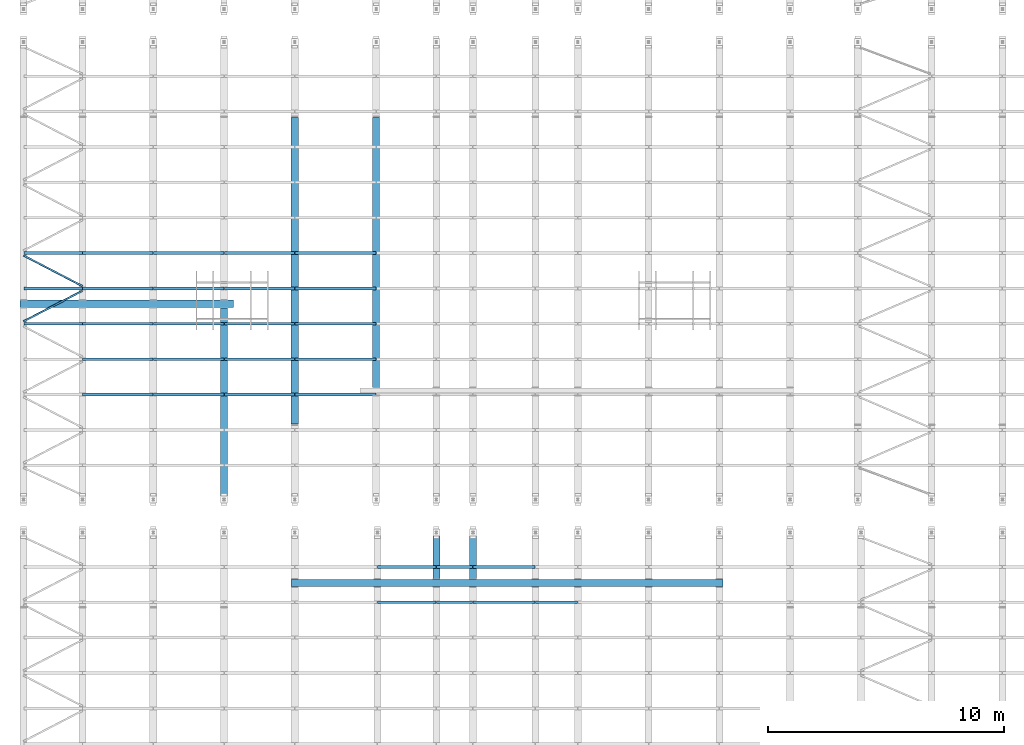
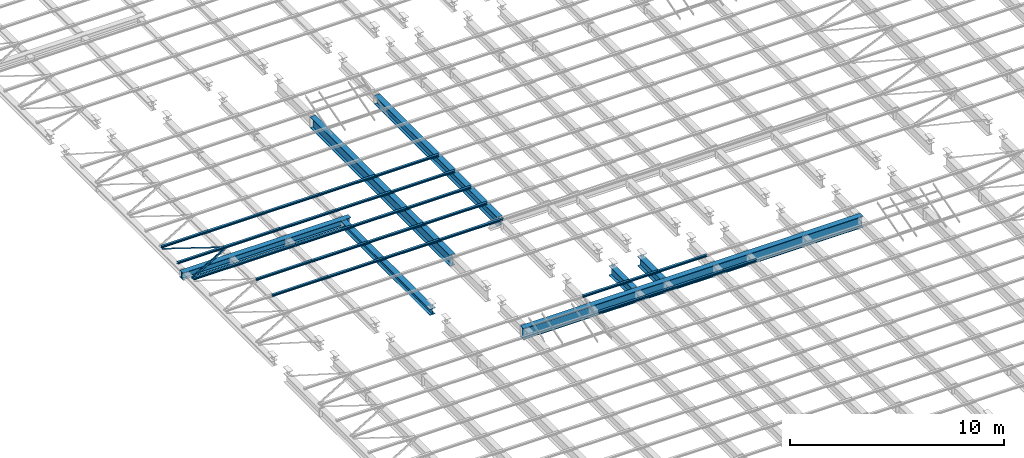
# One storey, part 41 of 139: 39 beams.
"""IFC2X3 building model written with IfcOpenShell, lengths in metres."""

from ifc_helpers import new_model, entity, si_unit, converted_unit, derived_unit, frame, origin, place, context, subcontext, project, spatial, polyline, outline, extrude, material, element, save


model = new_model("IFC2X3")

# Units and contexts
model_context = context("Model", 3, precision=1e-05, world=origin())
body_context = subcontext(model_context, "Body", "Model", "MODEL_VIEW")
ifc_project = project(units=[si_unit("LENGTHUNIT", "METRE"), si_unit("AREAUNIT", "SQUARE_METRE"), si_unit("VOLUMEUNIT", "CUBIC_METRE"), si_unit("MASSUNIT", "GRAM", prefix="KILO"), converted_unit("PLANEANGLEUNIT", "DEGREE", entity("IfcPlaneAngleMeasure", 0.0174532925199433), si_unit("PLANEANGLEUNIT", "RADIAN"), dimensions=[0, 0, 0, 0, 0, 0, 0]), derived_unit("THERMALTRANSMITTANCEUNIT", [(si_unit("POWERUNIT", "WATT"), 1), (si_unit("THERMODYNAMICTEMPERATUREUNIT", "KELVIN"), -1), (si_unit("LENGTHUNIT", "METRE"), -2)]), derived_unit("VOLUMETRICFLOWRATEUNIT", [(si_unit("LENGTHUNIT", "METRE"), 3), (converted_unit("TIMEUNIT", "hour", entity("IfcTimeMeasure", 3600.0), si_unit("TIMEUNIT", "SECOND"), dimensions=[0, 0, 1, 0, 0, 0, 0]), -1), (si_unit("LENGTHUNIT", "METRE"), -1)])], contexts=[model_context])

# Site, building, storey
site_placement = place(None, origin())
site = spatial("IfcSite", under=ifc_project, at=site_placement, Name="TWP_Speiseverteilzentrum SBW VZ II", CompositionType="ELEMENT")
building_placement = place(site_placement, origin())
building = spatial("IfcBuilding", under=site, at=building_placement, Name="Speiseverteilzentrum SBW VZ II", CompositionType="ELEMENT")
storey_placement = place(building_placement, frame((0.0, 0.0, 7.1307)))
storey = spatial("IfcBuildingStorey", under=building, at=storey_placement, Name="Wartung_FFB", CompositionType="ELEMENT", Elevation=7.1307)

# Beams
ifc_material_1 = material(Name="S235")
beam_1_placement = place(storey_placement, frame((21.9000000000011, 27.9599286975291, -0.51), z_axis=(0.0, 0.0, 1.0), x_axis=(-1.22464679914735e-16, -1.0, 0.0)))
element("IfcBeam", 1, at=beam_1_placement, inside=storey, material=ifc_material_1, Name="Stahlträger", context=body_context, shape_type="SweptSolid", body=[
    extrude(outline(polyline([(-0.15, 0.32), (-0.15, 0.294), (-0.00675000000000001, 0.294), (-0.00675000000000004, -0.294), (-0.15, -0.294), (-0.15, -0.32), (0.15, -0.32), (0.15, -0.294), (0.00674999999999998, -0.294), (0.00675000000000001, 0.294), (0.15, 0.294), (0.15, 0.32), (-0.15, 0.32)])), frame((0.0, 0.0, 0.0), z_axis=(0.0, 1.0, 0.0), x_axis=(-1.0, 0.0, 0.0)), (0.0, 0.0, 1.0), 18.3),
])
ifc_material_2 = material(Name="S235")
beam_2_placement = place(storey_placement, frame((10.3999999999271, 39.7998118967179, -0.385), z_axis=(0.0, 0.0, 1.0), x_axis=(-1.22464679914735e-16, -1.0, 0.0)))
element("IfcBeam", 2, at=beam_2_placement, inside=storey, material=ifc_material_2, Name="Stahlträger", context=body_context, shape_type="SweptSolid", body=[
    extrude(outline(polyline([(-0.15, 0.195), (-0.15, 0.176), (-0.00550000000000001, 0.176), (-0.00550000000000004, -0.176), (-0.15, -0.176), (-0.15, -0.195), (0.15, -0.195), (0.15, -0.176), (0.00549999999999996, -0.176), (0.00549999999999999, 0.176), (0.15, 0.176), (0.15, 0.195), (-0.15, 0.195)])), frame((0.0, 0.0, 0.0), z_axis=(0.0, 1.0, 0.0), x_axis=(-1.0, 0.0, 0.0)), (0.0, 0.0, 1.0), 9.05991337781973),
])
ifc_material_3 = material(Name="S235")
beam_3_placement = place(storey_placement, frame((22.0500000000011, 47.7020742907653, -0.51), z_axis=(0.0, 0.0, 1.0), x_axis=(-1.0, 0.0, 0.0)))
element("IfcBeam", 3, at=beam_3_placement, inside=storey, material=ifc_material_3, Name="Stahlträger", context=body_context, shape_type="SweptSolid", body=[
    extrude(outline(polyline([(-0.15, 0.32), (-0.15, 0.294), (-0.00675000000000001, 0.294), (-0.00675000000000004, -0.294), (-0.15, -0.294), (-0.15, -0.32), (0.15, -0.32), (0.15, -0.294), (0.00674999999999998, -0.294), (0.00675000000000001, 0.294), (0.15, 0.294), (0.15, 0.32), (-0.15, 0.32)])), frame((0.0, 0.0, 0.0), z_axis=(0.0, 1.0, 0.0), x_axis=(-1.0, 0.0, 0.0)), (0.0, 0.0, 1.0), 13.0041485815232),
])
ifc_material_4 = material(Name="S235")
beam_4_placement = place(storey_placement, frame((25.5025522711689, 47.7070000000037, -0.435), z_axis=(0.0, 0.0, 1.0), x_axis=(-1.0, 0.0, 0.0)))
element("IfcBeam", 4, at=beam_4_placement, inside=storey, material=ifc_material_4, Name="Stahlträger", context=body_context, shape_type="SweptSolid", body=[
    extrude(outline(polyline([(-0.15, 0.245), (-0.15, 0.222), (-0.00599999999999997, 0.222), (-0.006, -0.222), (-0.15, -0.222), (-0.15, -0.245), (0.15, -0.245), (0.15, -0.222), (0.00600000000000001, -0.222), (0.00600000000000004, 0.222), (0.15, 0.222), (0.15, 0.245), (-0.15, 0.245)])), frame((0.0, 0.0, 0.0), z_axis=(0.0, 1.0, 0.0), x_axis=(-1.0, 0.0, 0.0)), (0.0, 0.0, 1.0), 11.4521521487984),
])
ifc_material_5 = material(Name="S235")
beam_5_placement = place(storey_placement, frame((19.0500000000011, 39.6248118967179, -0.365), z_axis=(0.0, 0.0, 1.0), x_axis=(-1.0, 0.0, 0.0)))
element("IfcBeam", 5, at=beam_5_placement, inside=storey, material=ifc_material_5, Name="Stahlträger", context=body_context, shape_type="SweptSolid", body=[
    extrude(outline(polyline([(-0.15, 0.175), (-0.15, 0.1575), (-0.00500000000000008, 0.1575), (-0.0050000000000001, -0.1575), (-0.15, -0.1575), (-0.15, -0.175), (0.15, -0.175), (0.15, -0.1575), (0.0049999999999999, -0.1575), (0.00499999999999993, 0.1575), (0.15, 0.1575), (0.15, 0.175), (-0.15, 0.175)])), frame((0.0, 0.0, 0.0), z_axis=(0.0, 1.0, 0.0), x_axis=(-1.0, 0.0, 0.0)), (0.0, 0.0, 1.0), 8.27481189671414),
])
ifc_material_6 = material(Name="S235")
beam_6_placement = place(storey_placement, frame((28.0500000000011, 30.2500000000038, -0.46), z_axis=(0.0, 0.0, 1.0), x_axis=(-1.0, 0.0, 0.0)))
element("IfcBeam", 6, at=beam_6_placement, inside=storey, material=ifc_material_6, Name="Stahlträger", context=body_context, shape_type="SweptSolid", body=[
    extrude(outline(polyline([(-0.15, 0.27), (-0.15, 0.246), (-0.0062499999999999, 0.246), (-0.00624999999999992, -0.246), (-0.15, -0.246), (-0.15, -0.27), (0.15, -0.27), (0.15, -0.246), (0.00625000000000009, -0.246), (0.00625000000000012, 0.246), (0.15, 0.246), (0.15, 0.27), (-0.15, 0.27)])), frame((0.0, 0.0, 0.0), z_axis=(0.0, 1.0, 0.0), x_axis=(-1.0, 0.0, 0.0)), (0.0, 0.0, 1.0), 2.11507130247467),
])
ifc_material_7 = material(Name="S235")
beam_7_placement = place(storey_placement, frame((29.6000000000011, 30.2500000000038, -0.46), z_axis=(0.0, 0.0, 1.0), x_axis=(-1.0, 0.0, 0.0)))
element("IfcBeam", 7, at=beam_7_placement, inside=storey, material=ifc_material_7, Name="Stahlträger", context=body_context, shape_type="SweptSolid", body=[
    extrude(outline(polyline([(-0.15, 0.27), (-0.15, 0.246), (-0.0062499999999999, 0.246), (-0.00624999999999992, -0.246), (-0.15, -0.246), (-0.15, -0.27), (0.15, -0.27), (0.15, -0.246), (0.00625000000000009, -0.246), (0.00625000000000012, 0.246), (0.15, 0.246), (0.15, 0.27), (-0.15, 0.27)])), frame((0.0, 0.0, 0.0), z_axis=(0.0, 1.0, 0.0), x_axis=(-1.0, 0.0, 0.0)), (0.0, 0.0, 1.0), 2.11507130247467),
])
ifc_material_8 = material(Name="S235")
beam_8_placement = place(storey_placement, frame((13.0600000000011, 41.9500000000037, -0.133), z_axis=(0.0, 0.0, 1.0), x_axis=(0.0, -1.0, 0.0)))
element("IfcBeam", 8, at=beam_8_placement, inside=storey, material=ifc_material_8, Name="Nebenträger", context=body_context, shape_type="SweptSolid", body=[
    extrude(outline(polyline([(-0.06, 0.0570000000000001), (-0.06, 0.0490000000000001), (-0.00249999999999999, 0.0490000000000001), (-0.0025, -0.0489999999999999), (-0.06, -0.0489999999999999), (-0.06, -0.0569999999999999), (0.06, -0.0569999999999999), (0.06, -0.0489999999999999), (0.0025, -0.0489999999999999), (0.00250000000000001, 0.0490000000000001), (0.06, 0.0490000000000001), (0.06, 0.0570000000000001), (-0.06, 0.0570000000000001)])), frame((0.0, 0.0, 0.0), z_axis=(0.0, 1.0, 0.0), x_axis=(-1.0, 0.0, 0.0)), (0.0, 0.0, 1.0), 2.98),
])
ifc_material_9 = material(Name="S235")
beam_9_placement = place(storey_placement, frame((16.0600000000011, 41.9500000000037, -0.133), z_axis=(0.0, 0.0, 1.0), x_axis=(0.0, -1.0, 0.0)))
element("IfcBeam", 9, at=beam_9_placement, inside=storey, material=ifc_material_9, Name="Nebenträger", context=body_context, shape_type="SweptSolid", body=[
    extrude(outline(polyline([(-0.06, 0.0570000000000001), (-0.06, 0.0490000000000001), (-0.00249999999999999, 0.0490000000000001), (-0.0025, -0.0489999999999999), (-0.06, -0.0489999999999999), (-0.06, -0.0569999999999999), (0.06, -0.0569999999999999), (0.06, -0.0489999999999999), (0.0025, -0.0489999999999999), (0.00250000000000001, 0.0490000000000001), (0.06, 0.0490000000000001), (0.06, 0.0570000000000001), (-0.06, 0.0570000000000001)])), frame((0.0, 0.0, 0.0), z_axis=(0.0, 1.0, 0.0), x_axis=(-1.0, 0.0, 0.0)), (0.0, 0.0, 1.0), 2.98),
])
ifc_material_10 = material(Name="S235")
beam_10_placement = place(storey_placement, frame((19.0600000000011, 41.9500000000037, -0.133), z_axis=(0.0, 0.0, 1.0), x_axis=(0.0, -1.0, 0.0)))
element("IfcBeam", 10, at=beam_10_placement, inside=storey, material=ifc_material_10, Name="Nebenträger", context=body_context, shape_type="SweptSolid", body=[
    extrude(outline(polyline([(-0.06, 0.0570000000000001), (-0.06, 0.0490000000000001), (-0.00249999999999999, 0.0490000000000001), (-0.0025, -0.0489999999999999), (-0.06, -0.0489999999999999), (-0.06, -0.0569999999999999), (0.06, -0.0569999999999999), (0.06, -0.0489999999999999), (0.0025, -0.0489999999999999), (0.00250000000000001, 0.0490000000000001), (0.06, 0.0490000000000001), (0.06, 0.0570000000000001), (-0.06, 0.0570000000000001)])), frame((0.0, 0.0, 0.0), z_axis=(0.0, 1.0, 0.0), x_axis=(-1.0, 0.0, 0.0)), (0.0, 0.0, 1.0), 2.98),
])
ifc_material_11 = material(Name="S235")
beam_11_placement = place(storey_placement, frame((10.5600000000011, 41.9500000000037, -0.133), z_axis=(0.0, 0.0, 1.0), x_axis=(0.0, -1.0, 0.0)))
element("IfcBeam", 11, at=beam_11_placement, inside=storey, material=ifc_material_11, Name="Nebenträger", context=body_context, shape_type="SweptSolid", body=[
    extrude(outline(polyline([(-0.06, 0.0570000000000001), (-0.06, 0.0490000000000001), (-0.00249999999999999, 0.0490000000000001), (-0.0025, -0.0489999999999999), (-0.06, -0.0489999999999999), (-0.06, -0.0569999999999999), (0.06, -0.0569999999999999), (0.06, -0.0489999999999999), (0.0025, -0.0489999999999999), (0.00250000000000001, 0.0490000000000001), (0.06, 0.0490000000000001), (0.06, 0.0570000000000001), (-0.06, 0.0570000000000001)])), frame((0.0, 0.0, 0.0), z_axis=(0.0, 1.0, 0.0), x_axis=(-1.0, 0.0, 0.0)), (0.0, 0.0, 1.0), 2.48000000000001),
])
ifc_material_12 = material(Name="S235")
beam_12_placement = place(storey_placement, frame((13.0600000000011, 40.4500000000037, -0.133), z_axis=(0.0, 0.0, 1.0), x_axis=(0.0, -1.0, 0.0)))
element("IfcBeam", 12, at=beam_12_placement, inside=storey, material=ifc_material_12, Name="Nebenträger", context=body_context, shape_type="SweptSolid", body=[
    extrude(outline(polyline([(-0.06, 0.0570000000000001), (-0.06, 0.0490000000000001), (-0.00249999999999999, 0.0490000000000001), (-0.0025, -0.0489999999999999), (-0.06, -0.0489999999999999), (-0.06, -0.0569999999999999), (0.06, -0.0569999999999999), (0.06, -0.0489999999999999), (0.0025, -0.0489999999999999), (0.00250000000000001, 0.0490000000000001), (0.06, 0.0490000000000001), (0.06, 0.0570000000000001), (-0.06, 0.0570000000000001)])), frame((0.0, 0.0, 0.0), z_axis=(0.0, 1.0, 0.0), x_axis=(-1.0, 0.0, 0.0)), (0.0, 0.0, 1.0), 2.98),
])
ifc_material_13 = material(Name="S235")
beam_13_placement = place(storey_placement, frame((16.0600000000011, 40.4500000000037, -0.133), z_axis=(0.0, 0.0, 1.0), x_axis=(0.0, -1.0, 0.0)))
element("IfcBeam", 13, at=beam_13_placement, inside=storey, material=ifc_material_13, Name="Nebenträger", context=body_context, shape_type="SweptSolid", body=[
    extrude(outline(polyline([(-0.06, 0.0570000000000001), (-0.06, 0.0490000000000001), (-0.00249999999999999, 0.0490000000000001), (-0.0025, -0.0489999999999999), (-0.06, -0.0489999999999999), (-0.06, -0.0569999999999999), (0.06, -0.0569999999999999), (0.06, -0.0489999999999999), (0.0025, -0.0489999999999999), (0.00250000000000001, 0.0490000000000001), (0.06, 0.0490000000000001), (0.06, 0.0570000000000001), (-0.06, 0.0570000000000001)])), frame((0.0, 0.0, 0.0), z_axis=(0.0, 1.0, 0.0), x_axis=(-1.0, 0.0, 0.0)), (0.0, 0.0, 1.0), 2.98),
])
ifc_material_14 = material(Name="S235")
beam_14_placement = place(storey_placement, frame((19.0600000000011, 40.4500000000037, -0.133), z_axis=(0.0, 0.0, 1.0), x_axis=(0.0, -1.0, 0.0)))
element("IfcBeam", 14, at=beam_14_placement, inside=storey, material=ifc_material_14, Name="Nebenträger", context=body_context, shape_type="SweptSolid", body=[
    extrude(outline(polyline([(-0.06, 0.0570000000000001), (-0.06, 0.0490000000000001), (-0.00249999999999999, 0.0490000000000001), (-0.0025, -0.0489999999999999), (-0.06, -0.0489999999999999), (-0.06, -0.0569999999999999), (0.06, -0.0569999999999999), (0.06, -0.0489999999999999), (0.0025, -0.0489999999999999), (0.00250000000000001, 0.0490000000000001), (0.06, 0.0490000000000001), (0.06, 0.0570000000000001), (-0.06, 0.0570000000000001)])), frame((0.0, 0.0, 0.0), z_axis=(0.0, 1.0, 0.0), x_axis=(-1.0, 0.0, 0.0)), (0.0, 0.0, 1.0), 2.98),
])
ifc_material_15 = material(Name="S235")
beam_15_placement = place(storey_placement, frame((10.5600000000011, 40.4500000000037, -0.133), z_axis=(0.0, 0.0, 1.0), x_axis=(0.0, -1.0, 0.0)))
element("IfcBeam", 15, at=beam_15_placement, inside=storey, material=ifc_material_15, Name="Nebenträger", context=body_context, shape_type="SweptSolid", body=[
    extrude(outline(polyline([(-0.06, 0.0570000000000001), (-0.06, 0.0490000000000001), (-0.00249999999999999, 0.0490000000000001), (-0.0025, -0.0489999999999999), (-0.06, -0.0489999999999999), (-0.06, -0.0569999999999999), (0.06, -0.0569999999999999), (0.06, -0.0489999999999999), (0.0025, -0.0489999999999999), (0.00250000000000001, 0.0490000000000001), (0.06, 0.0490000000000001), (0.06, 0.0570000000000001), (-0.06, 0.0570000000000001)])), frame((0.0, 0.0, 0.0), z_axis=(0.0, 1.0, 0.0), x_axis=(-1.0, 0.0, 0.0)), (0.0, 0.0, 1.0), 2.48000000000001),
])
ifc_material_16 = material(Name="S235")
beam_16_placement = place(storey_placement, frame((13.0600000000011, 38.9500000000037, -0.133), z_axis=(0.0, 0.0, 1.0), x_axis=(0.0, -1.0, 0.0)))
element("IfcBeam", 16, at=beam_16_placement, inside=storey, material=ifc_material_16, Name="Nebenträger", context=body_context, shape_type="SweptSolid", body=[
    extrude(outline(polyline([(-0.06, 0.0570000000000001), (-0.06, 0.0490000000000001), (-0.00249999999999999, 0.0490000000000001), (-0.0025, -0.0489999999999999), (-0.06, -0.0489999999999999), (-0.06, -0.0569999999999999), (0.06, -0.0569999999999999), (0.06, -0.0489999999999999), (0.0025, -0.0489999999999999), (0.00250000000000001, 0.0490000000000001), (0.06, 0.0490000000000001), (0.06, 0.0570000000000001), (-0.06, 0.0570000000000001)])), frame((0.0, 0.0, 0.0), z_axis=(0.0, 1.0, 0.0), x_axis=(-1.0, 0.0, 0.0)), (0.0, 0.0, 1.0), 2.98),
])
ifc_material_17 = material(Name="S235")
beam_17_placement = place(storey_placement, frame((16.0600000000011, 38.9500000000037, -0.133), z_axis=(0.0, 0.0, 1.0), x_axis=(0.0, -1.0, 0.0)))
element("IfcBeam", 17, at=beam_17_placement, inside=storey, material=ifc_material_17, Name="Nebenträger", context=body_context, shape_type="SweptSolid", body=[
    extrude(outline(polyline([(-0.06, 0.0570000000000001), (-0.06, 0.0490000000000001), (-0.00249999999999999, 0.0490000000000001), (-0.0025, -0.0489999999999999), (-0.06, -0.0489999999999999), (-0.06, -0.0569999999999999), (0.06, -0.0569999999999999), (0.06, -0.0489999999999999), (0.0025, -0.0489999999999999), (0.00250000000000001, 0.0490000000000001), (0.06, 0.0490000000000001), (0.06, 0.0570000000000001), (-0.06, 0.0570000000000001)])), frame((0.0, 0.0, 0.0), z_axis=(0.0, 1.0, 0.0), x_axis=(-1.0, 0.0, 0.0)), (0.0, 0.0, 1.0), 2.98),
])
ifc_material_18 = material(Name="S235")
beam_18_placement = place(storey_placement, frame((19.0600000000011, 38.9500000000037, -0.133), z_axis=(0.0, 0.0, 1.0), x_axis=(0.0, -1.0, 0.0)))
element("IfcBeam", 18, at=beam_18_placement, inside=storey, material=ifc_material_18, Name="Nebenträger", context=body_context, shape_type="SweptSolid", body=[
    extrude(outline(polyline([(-0.06, 0.0570000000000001), (-0.06, 0.0490000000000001), (-0.00249999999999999, 0.0490000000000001), (-0.0025, -0.0489999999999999), (-0.06, -0.0489999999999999), (-0.06, -0.0569999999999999), (0.06, -0.0569999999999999), (0.06, -0.0489999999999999), (0.0025, -0.0489999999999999), (0.00250000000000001, 0.0490000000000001), (0.06, 0.0490000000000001), (0.06, 0.0570000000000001), (-0.06, 0.0570000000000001)])), frame((0.0, 0.0, 0.0), z_axis=(0.0, 1.0, 0.0), x_axis=(-1.0, 0.0, 0.0)), (0.0, 0.0, 1.0), 2.98),
])
ifc_material_19 = material(Name="S235")
beam_19_placement = place(storey_placement, frame((10.5600000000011, 38.9500000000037, -0.133), z_axis=(0.0, 0.0, 1.0), x_axis=(0.0, -1.0, 0.0)))
element("IfcBeam", 19, at=beam_19_placement, inside=storey, material=ifc_material_19, Name="Nebenträger", context=body_context, shape_type="SweptSolid", body=[
    extrude(outline(polyline([(-0.06, 0.0570000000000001), (-0.06, 0.0490000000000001), (-0.00249999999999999, 0.0490000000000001), (-0.0025, -0.0489999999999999), (-0.06, -0.0489999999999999), (-0.06, -0.0569999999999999), (0.06, -0.0569999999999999), (0.06, -0.0489999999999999), (0.0025, -0.0489999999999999), (0.00250000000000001, 0.0490000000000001), (0.06, 0.0490000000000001), (0.06, 0.0570000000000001), (-0.06, 0.0570000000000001)])), frame((0.0, 0.0, 0.0), z_axis=(0.0, 1.0, 0.0), x_axis=(-1.0, 0.0, 0.0)), (0.0, 0.0, 1.0), 2.48000000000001),
])
ifc_material_20 = material(Name="S235")
beam_20_placement = place(storey_placement, frame((13.0600000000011, 37.4500000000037, -0.133), z_axis=(0.0, 0.0, 1.0), x_axis=(0.0, -1.0, 0.0)))
element("IfcBeam", 20, at=beam_20_placement, inside=storey, material=ifc_material_20, Name="Nebenträger", context=body_context, shape_type="SweptSolid", body=[
    extrude(outline(polyline([(-0.06, 0.0570000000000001), (-0.06, 0.0490000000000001), (-0.00249999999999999, 0.0490000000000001), (-0.0025, -0.0489999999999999), (-0.06, -0.0489999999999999), (-0.06, -0.0569999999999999), (0.06, -0.0569999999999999), (0.06, -0.0489999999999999), (0.0025, -0.0489999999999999), (0.00250000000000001, 0.0490000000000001), (0.06, 0.0490000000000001), (0.06, 0.0570000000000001), (-0.06, 0.0570000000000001)])), frame((0.0, 0.0, 0.0), z_axis=(0.0, 1.0, 0.0), x_axis=(-1.0, 0.0, 0.0)), (0.0, 0.0, 1.0), 2.98),
])
ifc_material_21 = material(Name="S235")
beam_21_placement = place(storey_placement, frame((16.0600000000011, 37.4500000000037, -0.133), z_axis=(0.0, 0.0, 1.0), x_axis=(0.0, -1.0, 0.0)))
element("IfcBeam", 21, at=beam_21_placement, inside=storey, material=ifc_material_21, Name="Nebenträger", context=body_context, shape_type="SweptSolid", body=[
    extrude(outline(polyline([(-0.06, 0.0570000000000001), (-0.06, 0.0490000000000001), (-0.00249999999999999, 0.0490000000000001), (-0.0025, -0.0489999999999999), (-0.06, -0.0489999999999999), (-0.06, -0.0569999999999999), (0.06, -0.0569999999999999), (0.06, -0.0489999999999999), (0.0025, -0.0489999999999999), (0.00250000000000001, 0.0490000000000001), (0.06, 0.0490000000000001), (0.06, 0.0570000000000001), (-0.06, 0.0570000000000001)])), frame((0.0, 0.0, 0.0), z_axis=(0.0, 1.0, 0.0), x_axis=(-1.0, 0.0, 0.0)), (0.0, 0.0, 1.0), 2.98),
])
ifc_material_22 = material(Name="S235")
beam_22_placement = place(storey_placement, frame((19.0600000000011, 37.4500000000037, -0.133), z_axis=(0.0, 0.0, 1.0), x_axis=(0.0, -1.0, 0.0)))
element("IfcBeam", 22, at=beam_22_placement, inside=storey, material=ifc_material_22, Name="Nebenträger", context=body_context, shape_type="SweptSolid", body=[
    extrude(outline(polyline([(-0.06, 0.0570000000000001), (-0.06, 0.0490000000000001), (-0.00249999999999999, 0.0490000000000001), (-0.0025, -0.0489999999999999), (-0.06, -0.0489999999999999), (-0.06, -0.0569999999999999), (0.06, -0.0569999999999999), (0.06, -0.0489999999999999), (0.0025, -0.0489999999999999), (0.00250000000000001, 0.0490000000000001), (0.06, 0.0490000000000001), (0.06, 0.0570000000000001), (-0.06, 0.0570000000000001)])), frame((0.0, 0.0, 0.0), z_axis=(0.0, 1.0, 0.0), x_axis=(-1.0, 0.0, 0.0)), (0.0, 0.0, 1.0), 2.98),
])
ifc_material_23 = material(Name="S235")
beam_23_placement = place(storey_placement, frame((13.0600000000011, 35.9500000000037, -0.133), z_axis=(0.0, 0.0, 1.0), x_axis=(0.0, -1.0, 0.0)))
element("IfcBeam", 23, at=beam_23_placement, inside=storey, material=ifc_material_23, Name="Nebenträger", context=body_context, shape_type="SweptSolid", body=[
    extrude(outline(polyline([(-0.06, 0.0570000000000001), (-0.06, 0.0490000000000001), (-0.00249999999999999, 0.0490000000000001), (-0.0025, -0.0489999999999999), (-0.06, -0.0489999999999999), (-0.06, -0.0569999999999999), (0.06, -0.0569999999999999), (0.06, -0.0489999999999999), (0.0025, -0.0489999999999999), (0.00250000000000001, 0.0490000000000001), (0.06, 0.0490000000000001), (0.06, 0.0570000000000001), (-0.06, 0.0570000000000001)])), frame((0.0, 0.0, 0.0), z_axis=(0.0, 1.0, 0.0), x_axis=(-1.0, 0.0, 0.0)), (0.0, 0.0, 1.0), 2.98),
])
ifc_material_24 = material(Name="S235")
beam_24_placement = place(storey_placement, frame((16.0600000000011, 35.9500000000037, -0.133), z_axis=(0.0, 0.0, 1.0), x_axis=(0.0, -1.0, 0.0)))
element("IfcBeam", 24, at=beam_24_placement, inside=storey, material=ifc_material_24, Name="Nebenträger", context=body_context, shape_type="SweptSolid", body=[
    extrude(outline(polyline([(-0.06, 0.0570000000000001), (-0.06, 0.0490000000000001), (-0.00249999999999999, 0.0490000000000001), (-0.0025, -0.0489999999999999), (-0.06, -0.0489999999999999), (-0.06, -0.0569999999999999), (0.06, -0.0569999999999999), (0.06, -0.0489999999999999), (0.0025, -0.0489999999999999), (0.00250000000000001, 0.0490000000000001), (0.06, 0.0490000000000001), (0.06, 0.0570000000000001), (-0.06, 0.0570000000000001)])), frame((0.0, 0.0, 0.0), z_axis=(0.0, 1.0, 0.0), x_axis=(-1.0, 0.0, 0.0)), (0.0, 0.0, 1.0), 2.98),
])
ifc_material_25 = material(Name="S235")
beam_25_placement = place(storey_placement, frame((19.0600000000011, 35.9500000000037, -0.133), z_axis=(0.0, 0.0, 1.0), x_axis=(0.0, -1.0, 0.0)))
element("IfcBeam", 25, at=beam_25_placement, inside=storey, material=ifc_material_25, Name="Nebenträger", context=body_context, shape_type="SweptSolid", body=[
    extrude(outline(polyline([(-0.06, 0.0570000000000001), (-0.06, 0.0490000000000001), (-0.00249999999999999, 0.0490000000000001), (-0.0025, -0.0489999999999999), (-0.06, -0.0489999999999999), (-0.06, -0.0569999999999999), (0.06, -0.0569999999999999), (0.06, -0.0489999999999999), (0.0025, -0.0489999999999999), (0.00250000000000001, 0.0490000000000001), (0.06, 0.0490000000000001), (0.06, 0.0570000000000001), (-0.06, 0.0570000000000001)])), frame((0.0, 0.0, 0.0), z_axis=(0.0, 1.0, 0.0), x_axis=(-1.0, 0.0, 0.0)), (0.0, 0.0, 1.0), 2.98),
])
ifc_material_26 = material(Name="S235")
beam_26_placement = place(storey_placement, frame((25.5662500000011, 28.6450742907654, -0.133), z_axis=(0.0, 0.0, 1.0), x_axis=(0.0, -1.0, 0.0)))
element("IfcBeam", 26, at=beam_26_placement, inside=storey, material=ifc_material_26, Name="Nebenträger", context=body_context, shape_type="SweptSolid", body=[
    extrude(outline(polyline([(-0.06, 0.0570000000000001), (-0.06, 0.0490000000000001), (-0.00249999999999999, 0.0490000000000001), (-0.0025, -0.0489999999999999), (-0.06, -0.0489999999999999), (-0.06, -0.0569999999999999), (0.06, -0.0569999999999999), (0.06, -0.0489999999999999), (0.0025, -0.0489999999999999), (0.00250000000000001, 0.0490000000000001), (0.06, 0.0490000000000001), (0.06, 0.0570000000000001), (-0.06, 0.0570000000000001)])), frame((0.0, 0.0, 0.0), z_axis=(0.0, 1.0, 0.0), x_axis=(-1.0, 0.0, 0.0)), (0.0, 0.0, 1.0), 2.47375),
])
ifc_material_27 = material(Name="S235")
beam_27_placement = place(storey_placement, frame((25.5662500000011, 27.1450742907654, -0.133), z_axis=(0.0, 0.0, 1.0), x_axis=(0.0, -1.0, 0.0)))
element("IfcBeam", 27, at=beam_27_placement, inside=storey, material=ifc_material_27, Name="Nebenträger", context=body_context, shape_type="SweptSolid", body=[
    extrude(outline(polyline([(-0.06, 0.0570000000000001), (-0.06, 0.0490000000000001), (-0.00249999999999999, 0.0490000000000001), (-0.0025, -0.0489999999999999), (-0.06, -0.0489999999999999), (-0.06, -0.0569999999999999), (0.06, -0.0569999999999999), (0.06, -0.0489999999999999), (0.0025, -0.0489999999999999), (0.00250000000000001, 0.0490000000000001), (0.06, 0.0490000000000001), (0.06, 0.0570000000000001), (-0.06, 0.0570000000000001)])), frame((0.0, 0.0, 0.0), z_axis=(0.0, 1.0, 0.0), x_axis=(-1.0, 0.0, 0.0)), (0.0, 0.0, 1.0), 2.47375),
])
ifc_material_28 = material(Name="S235")
beam_28_placement = place(storey_placement, frame((28.0600000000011, 28.6450742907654, -0.133), z_axis=(0.0, 0.0, 1.0), x_axis=(0.0, -1.0, 0.0)))
element("IfcBeam", 28, at=beam_28_placement, inside=storey, material=ifc_material_28, Name="Nebenträger", context=body_context, shape_type="SweptSolid", body=[
    extrude(outline(polyline([(-0.06, 0.0570000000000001), (-0.06, 0.0490000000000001), (-0.00249999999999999, 0.0490000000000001), (-0.0025, -0.0489999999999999), (-0.06, -0.0489999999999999), (-0.06, -0.0569999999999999), (0.06, -0.0569999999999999), (0.06, -0.0489999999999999), (0.0025, -0.0489999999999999), (0.00250000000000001, 0.0490000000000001), (0.06, 0.0490000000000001), (0.06, 0.0570000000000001), (-0.06, 0.0570000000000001)])), frame((0.0, 0.0, 0.0), z_axis=(0.0, 1.0, 0.0), x_axis=(-1.0, 0.0, 0.0)), (0.0, 0.0, 1.0), 1.52999999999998),
])
ifc_material_29 = material(Name="S235")
beam_29_placement = place(storey_placement, frame((28.0600000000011, 27.1450742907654, -0.133), z_axis=(0.0, 0.0, 1.0), x_axis=(0.0, -1.0, 0.0)))
element("IfcBeam", 29, at=beam_29_placement, inside=storey, material=ifc_material_29, Name="Nebenträger", context=body_context, shape_type="SweptSolid", body=[
    extrude(outline(polyline([(-0.06, 0.0570000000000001), (-0.06, 0.0490000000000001), (-0.00249999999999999, 0.0490000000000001), (-0.0025, -0.0489999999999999), (-0.06, -0.0489999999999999), (-0.06, -0.0569999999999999), (0.06, -0.0569999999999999), (0.06, -0.0489999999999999), (0.0025, -0.0489999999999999), (0.00250000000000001, 0.0490000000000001), (0.06, 0.0490000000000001), (0.06, 0.0570000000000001), (-0.06, 0.0570000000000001)])), frame((0.0, 0.0, 0.0), z_axis=(0.0, 1.0, 0.0), x_axis=(-1.0, 0.0, 0.0)), (0.0, 0.0, 1.0), 1.52999999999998),
])
ifc_material_30 = material(Name="S235")
beam_30_placement = place(storey_placement, frame((29.6100000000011, 28.6450742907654, -0.133), z_axis=(0.0, 0.0, 1.0), x_axis=(0.0, -1.0, 0.0)))
element("IfcBeam", 30, at=beam_30_placement, inside=storey, material=ifc_material_30, Name="Nebenträger", context=body_context, shape_type="SweptSolid", body=[
    extrude(outline(polyline([(-0.06, 0.0570000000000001), (-0.06, 0.0490000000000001), (-0.00249999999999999, 0.0490000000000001), (-0.0025, -0.0489999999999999), (-0.06, -0.0489999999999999), (-0.06, -0.0569999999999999), (0.06, -0.0569999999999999), (0.06, -0.0489999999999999), (0.0025, -0.0489999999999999), (0.00250000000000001, 0.0490000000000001), (0.06, 0.0490000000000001), (0.06, 0.0570000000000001), (-0.06, 0.0570000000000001)])), frame((0.0, 0.0, 0.0), z_axis=(0.0, 1.0, 0.0), x_axis=(-1.0, 0.0, 0.0)), (0.0, 0.0, 1.0), 2.63000000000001),
])
ifc_material_31 = material(Name="S235")
beam_31_placement = place(storey_placement, frame((29.6100000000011, 27.1450742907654, -0.133), z_axis=(0.0, 0.0, 1.0), x_axis=(0.0, -1.0, 0.0)))
element("IfcBeam", 31, at=beam_31_placement, inside=storey, material=ifc_material_31, Name="Nebenträger", context=body_context, shape_type="SweptSolid", body=[
    extrude(outline(polyline([(-0.06, 0.0570000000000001), (-0.06, 0.0490000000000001), (-0.00249999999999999, 0.0490000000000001), (-0.0025, -0.0489999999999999), (-0.06, -0.0489999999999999), (-0.06, -0.0569999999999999), (0.06, -0.0569999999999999), (0.06, -0.0489999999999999), (0.0025, -0.0489999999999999), (0.00250000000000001, 0.0490000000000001), (0.06, 0.0490000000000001), (0.06, 0.0570000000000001), (-0.06, 0.0570000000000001)])), frame((0.0, 0.0, 0.0), z_axis=(0.0, 1.0, 0.0), x_axis=(-1.0, 0.0, 0.0)), (0.0, 0.0, 1.0), 2.63000000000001),
])
ifc_material_32 = material(Name="S235")
beam_32_placement = place(storey_placement, frame((32.2600000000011, 27.1450742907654, -0.133), z_axis=(0.0, 0.0, 1.0), x_axis=(0.0, -1.0, 0.0)))
element("IfcBeam", 32, at=beam_32_placement, inside=storey, material=ifc_material_32, Name="Nebenträger", context=body_context, shape_type="SweptSolid", body=[
    extrude(outline(polyline([(-0.06, 0.0570000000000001), (-0.06, 0.0490000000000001), (-0.00249999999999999, 0.0490000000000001), (-0.0025, -0.0489999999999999), (-0.06, -0.0489999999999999), (-0.06, -0.0569999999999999), (0.06, -0.0569999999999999), (0.06, -0.0489999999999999), (0.0025, -0.0489999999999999), (0.00250000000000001, 0.0490000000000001), (0.06, 0.0490000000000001), (0.06, 0.0570000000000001), (-0.06, 0.0570000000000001)])), frame((0.0, 0.0, 0.0), z_axis=(0.0, 1.0, 0.0), x_axis=(-1.0, 0.0, 0.0)), (0.0, 0.0, 1.0), 1.78000000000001),
])
ifc_material_33 = material(Name="S235")
beam_33_placement = place(storey_placement, frame((22.0600000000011, 41.9500000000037, -0.133), z_axis=(0.0, 0.0, 1.0), x_axis=(0.0, -1.0, 0.0)))
element("IfcBeam", 33, at=beam_33_placement, inside=storey, material=ifc_material_33, Name="Nebenträger", context=body_context, shape_type="SweptSolid", body=[
    extrude(outline(polyline([(-0.06, 0.0570000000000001), (-0.06, 0.0490000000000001), (-0.00249999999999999, 0.0490000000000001), (-0.0025, -0.0489999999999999), (-0.06, -0.0489999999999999), (-0.06, -0.0569999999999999), (0.06, -0.0569999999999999), (0.06, -0.0489999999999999), (0.0025, -0.0489999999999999), (0.00250000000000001, 0.0490000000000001), (0.06, 0.0490000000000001), (0.06, 0.0570000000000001), (-0.06, 0.0570000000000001)])), frame((0.0, 0.0, 0.0), z_axis=(0.0, 1.0, 0.0), x_axis=(-1.0, 0.0, 0.0)), (0.0, 0.0, 1.0), 3.43255227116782),
])
ifc_material_34 = material(Name="S235")
beam_34_placement = place(storey_placement, frame((22.0600000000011, 40.4500000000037, -0.133), z_axis=(0.0, 0.0, 1.0), x_axis=(0.0, -1.0, 0.0)))
element("IfcBeam", 34, at=beam_34_placement, inside=storey, material=ifc_material_34, Name="Nebenträger", context=body_context, shape_type="SweptSolid", body=[
    extrude(outline(polyline([(-0.06, 0.0570000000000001), (-0.06, 0.0490000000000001), (-0.00249999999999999, 0.0490000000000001), (-0.0025, -0.0489999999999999), (-0.06, -0.0489999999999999), (-0.06, -0.0569999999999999), (0.06, -0.0569999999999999), (0.06, -0.0489999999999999), (0.0025, -0.0489999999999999), (0.00250000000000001, 0.0490000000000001), (0.06, 0.0490000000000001), (0.06, 0.0570000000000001), (-0.06, 0.0570000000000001)])), frame((0.0, 0.0, 0.0), z_axis=(0.0, 1.0, 0.0), x_axis=(-1.0, 0.0, 0.0)), (0.0, 0.0, 1.0), 3.43255227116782),
])
ifc_material_35 = material(Name="S235")
beam_35_placement = place(storey_placement, frame((22.0600000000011, 38.9500000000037, -0.133), z_axis=(0.0, 0.0, 1.0), x_axis=(0.0, -1.0, 0.0)))
element("IfcBeam", 35, at=beam_35_placement, inside=storey, material=ifc_material_35, Name="Nebenträger", context=body_context, shape_type="SweptSolid", body=[
    extrude(outline(polyline([(-0.06, 0.0570000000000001), (-0.06, 0.0490000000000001), (-0.00249999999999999, 0.0490000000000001), (-0.0025, -0.0489999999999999), (-0.06, -0.0489999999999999), (-0.06, -0.0569999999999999), (0.06, -0.0569999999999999), (0.06, -0.0489999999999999), (0.0025, -0.0489999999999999), (0.00250000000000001, 0.0490000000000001), (0.06, 0.0490000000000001), (0.06, 0.0570000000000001), (-0.06, 0.0570000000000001)])), frame((0.0, 0.0, 0.0), z_axis=(0.0, 1.0, 0.0), x_axis=(-1.0, 0.0, 0.0)), (0.0, 0.0, 1.0), 3.43255227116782),
])
ifc_material_36 = material(Name="S235")
beam_36_placement = place(storey_placement, frame((22.0600000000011, 37.4500000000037, -0.133), z_axis=(0.0, 0.0, 1.0), x_axis=(0.0, -1.0, 0.0)))
element("IfcBeam", 36, at=beam_36_placement, inside=storey, material=ifc_material_36, Name="Nebenträger", context=body_context, shape_type="SweptSolid", body=[
    extrude(outline(polyline([(-0.06, 0.0570000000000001), (-0.06, 0.0490000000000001), (-0.00249999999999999, 0.0490000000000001), (-0.0025, -0.0489999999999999), (-0.06, -0.0489999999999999), (-0.06, -0.0569999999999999), (0.06, -0.0569999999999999), (0.06, -0.0489999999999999), (0.0025, -0.0489999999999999), (0.00250000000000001, 0.0490000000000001), (0.06, 0.0490000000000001), (0.06, 0.0570000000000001), (-0.06, 0.0570000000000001)])), frame((0.0, 0.0, 0.0), z_axis=(0.0, 1.0, 0.0), x_axis=(-1.0, 0.0, 0.0)), (0.0, 0.0, 1.0), 3.43255227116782),
])
ifc_material_37 = material(Name="S235")
beam_37_placement = place(storey_placement, frame((22.0600000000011, 35.9500000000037, -0.133), z_axis=(0.0, 0.0, 1.0), x_axis=(0.0, -1.0, 0.0)))
element("IfcBeam", 37, at=beam_37_placement, inside=storey, material=ifc_material_37, Name="Nebenträger", context=body_context, shape_type="SweptSolid", body=[
    extrude(outline(polyline([(-0.06, 0.0570000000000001), (-0.06, 0.0490000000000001), (-0.00249999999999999, 0.0490000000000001), (-0.0025, -0.0489999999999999), (-0.06, -0.0489999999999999), (-0.06, -0.0569999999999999), (0.06, -0.0569999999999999), (0.06, -0.0489999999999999), (0.0025, -0.0489999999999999), (0.00250000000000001, 0.0490000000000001), (0.06, 0.0490000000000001), (0.06, 0.0570000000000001), (-0.06, 0.0570000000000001)])), frame((0.0, 0.0, 0.0), z_axis=(0.0, 1.0, 0.0), x_axis=(-1.0, 0.0, 0.0)), (0.0, 0.0, 1.0), 3.43255227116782),
])
ifc_material_38 = material(Name="S235")
beam_38_placement = place(storey_placement, frame((10.5365784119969, 41.8331815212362, -0.167052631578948), z_axis=(0.0, 0.0, 1.0), x_axis=(-0.4612662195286, -0.887261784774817, 0.0)))
element("IfcBeam", 38, at=beam_38_placement, inside=storey, material=ifc_material_38, Name="Kreuzverband", context=body_context, shape_type="SweptSolid", body=[
    extrude(outline(polyline([(0.0570526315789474, -0.0229473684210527), (0.0570526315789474, -0.0149473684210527), (-0.0149473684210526, -0.0149473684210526), (-0.0149473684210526, 0.0570526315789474), (-0.0229473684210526, 0.0570526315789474), (-0.0229473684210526, -0.0229473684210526), (0.0570526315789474, -0.0229473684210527)])), frame((0.0, 0.0, 0.0), z_axis=(0.0, 1.00000000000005, 0.0), x_axis=(-1.0, 0.0, 0.0)), (0.0, 0.0, 1.0), 2.82000000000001),
])
ifc_material_39 = material(Name="S235")
beam_39_placement = place(storey_placement, frame((10.5365784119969, 39.0668184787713, -0.167052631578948), z_axis=(0.0, 0.0, 1.0), x_axis=(0.4612662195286, -0.887261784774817, 0.0)))
element("IfcBeam", 39, at=beam_39_placement, inside=storey, material=ifc_material_39, Name="Kreuzverband", context=body_context, shape_type="SweptSolid", body=[
    extrude(outline(polyline([(0.0229473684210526, -0.0229473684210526), (0.0229473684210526, 0.0570526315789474), (0.0149473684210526, 0.0570526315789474), (0.0149473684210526, -0.0149473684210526), (-0.0570526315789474, -0.0149473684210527), (-0.0570526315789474, -0.0229473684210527), (0.0229473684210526, -0.0229473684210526)])), frame((0.0, 0.0, 0.0), z_axis=(0.0, 1.00000000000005, 0.0), x_axis=(-1.0, 0.0, 0.0)), (0.0, 0.0, 1.0), 2.82000000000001),
])

save(model, "model.ifc")
